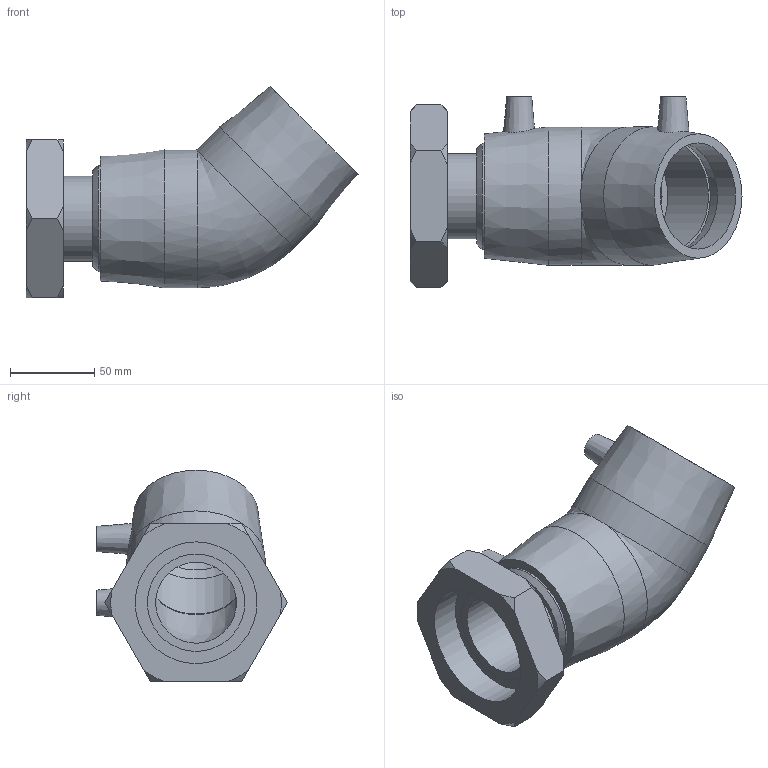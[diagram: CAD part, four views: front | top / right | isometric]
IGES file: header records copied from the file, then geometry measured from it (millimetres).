
Global section: file name: 494604063025.ipt; native system: Autodesk Inventor 2015; preprocessor: unknown; author: KIM; date: 20171106.094157; units: millimetre
Bounding box: 197 x 113.17 x 125.57 mm (x, y, z)
Volume: 486607.3 mm3; surface area: 104442.4 mm2
Topology: 1 solids, 2 shells, 60 faces, 147 edges, 100 vertices
Faces by surface type: plane 23, cone 17, revolution 11, cylinder 8, bspline 1
Full cylindrical faces by diameter (mm): 4 x2, 50.558 x1, 57.781 x1, 63 x2, 82 x2
